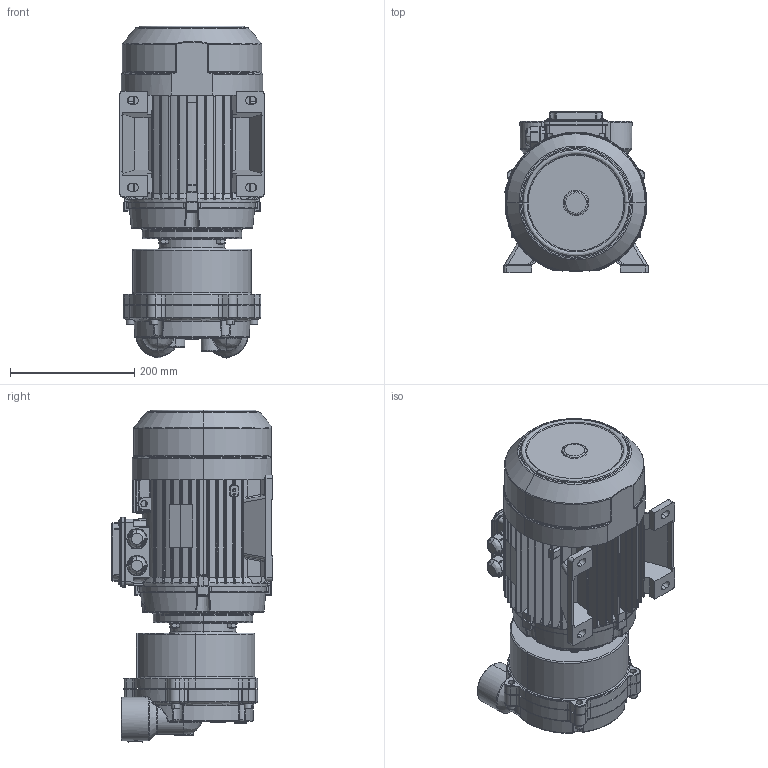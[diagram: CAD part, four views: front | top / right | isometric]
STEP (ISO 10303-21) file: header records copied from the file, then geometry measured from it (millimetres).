
FILE_DESCRIPTION (( 'STEP AP214' ), '1' );
FILE_NAME ('GMVP145-80 MONTAJ IE3 OMEGA MOTORLU.STEP', '2024-03-14T12:00:32', ( '' ), ( '' ), 'SwSTEP 2.0', 'SolidWorks 2024', '' );
FILE_SCHEMA (( 'AUTOMOTIVE_DESIGN' ));
Length unit declared in the file: millimetre
Products named in the file (1): GMVP145-80 MONTAJ IE3 OMEGA MOTORLU
Bounding box: 232 x 259.5 x 533.5 mm (x, y, z)
Volume: 16641992.7 mm3; surface area: 779712.2 mm2
Topology: 8 solids, 16 shells, 4338 faces, 10936 edges, 6688 vertices
Faces by surface type: plane 1308, cylinder 1189, bspline 1157, cone 354, torus 224, sphere 106
Entity records: 216875 total; most frequent: CARTESIAN_POINT 125984, ORIENTED_EDGE 21528, DIRECTION 15448, EDGE_CURVE 10764, VERTEX_POINT 6668, AXIS2_PLACEMENT_3D 5827, EDGE_LOOP 4590, ADVANCED_FACE 4338
